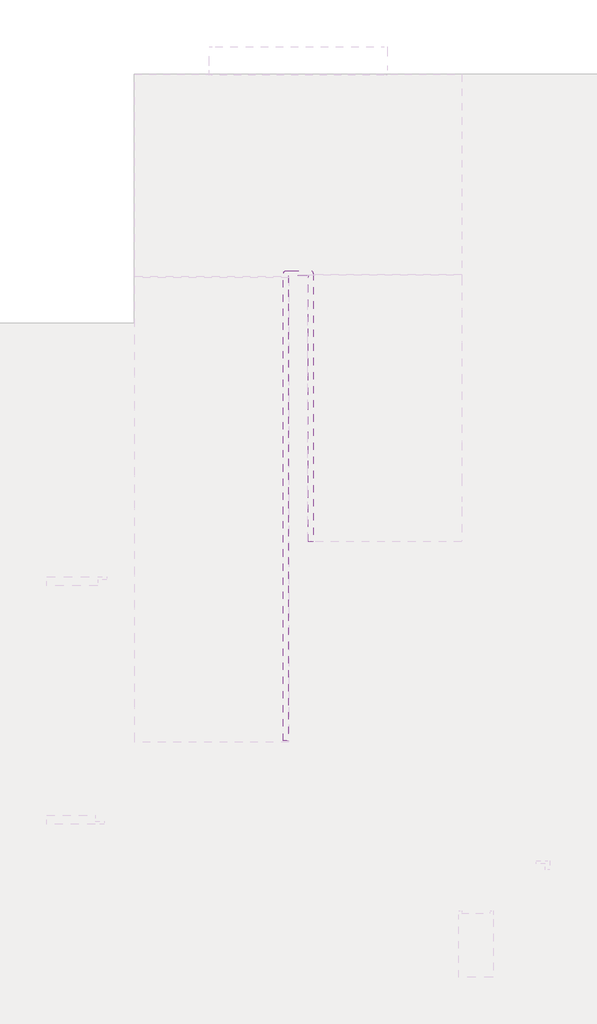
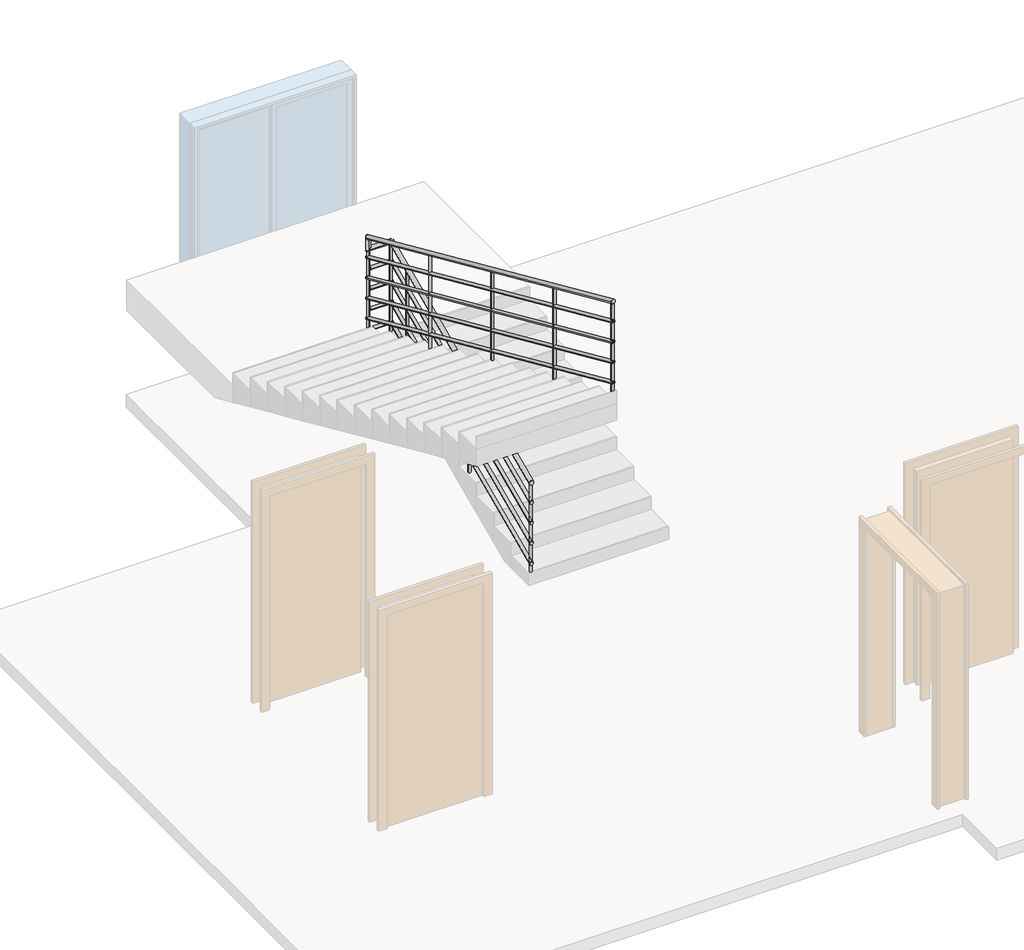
# One storey, part 4 of 5: 1 railing.
"""IFC4 building model written with IfcOpenShell, lengths in millimetres."""

from ifc_helpers import new_model, si_unit, point, frame, frame_2d, origin, place, context, project, spatial, circle_curve, ellipse_curve, trimmed, segment, composite_curve, outline, extrude, element, save
from ifc_brep_helpers import plane_surface, cylinder_surface, advanced_brep

model = new_model("IFC4")

# Units and contexts
model_context = context("Model", 3, world=origin())
ifc_project = project(units=[si_unit("LENGTHUNIT", "METRE", prefix="MILLI")], contexts=[model_context])

# Site, building, storey
site = spatial("IfcSite", under=ifc_project)
building = spatial("IfcBuilding", under=site)
storey = spatial("IfcBuildingStorey", under=building, Name="标高 1", Elevation=0.0)

# Railing
placement = place(None, origin())
element("IfcRailing", 1, ObjectType="900mm 圆管", at=placement, inside=storey, context=model_context, shape_type="SolidModel", body=[
    advanced_brep(
    [(-4237.8622628, 21684.1658649, 2203.0975027), (-4277.8622628, 21684.1658649, 2203.0975027), (-4237.8622628, 23950.5816393, 3214.8902592), (-4277.8622628, 23914.056124, 3198.5842255)],
    [
        (0, 1, ellipse_curve(frame((-4257.8622628, 21684.1658649, 2203.0975027), z_axis=(0.0, -1.0, 0.0), x_axis=(0.0, 0.0, -1.0)), 21.9024973, 20.0)),
        (1, 0, ellipse_curve(frame((-4257.8622628, 21684.1658649, 2203.0975027), z_axis=(0.0, -1.0, 0.0), x_axis=(0.0, 0.0, -1.0)), 21.9024973, 20.0)),
        (2, 3, ellipse_curve(frame((-4257.8622628, 23932.3188817, 3206.7372424), z_axis=(-0.707106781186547, 0.6456859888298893, 0.2882526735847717), x_axis=(-0.707106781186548, -0.6456859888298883, -0.2882526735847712)), 28.2842712, 20.0)),
        (3, 2, ellipse_curve(frame((-4257.8622628, 23932.3188817, 3206.7372424), z_axis=(-0.707106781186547, 0.6456859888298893, 0.2882526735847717), x_axis=(-0.707106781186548, -0.6456859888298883, -0.2882526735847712)), 28.2842712, 20.0)),
        (0, 2),
        (3, 1),
    ],
    [
        plane_surface(frame((-4257.8622628, 21684.1658649, 2225.0), z_axis=(0.0, -1.0, 0.0), x_axis=(0.0, 0.0, 1.0))),
        plane_surface(frame((-4257.8622628, 23924.1658649, 3225.0), z_axis=(-0.7071067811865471, 0.6456859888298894, 0.28825267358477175), x_axis=(0.7071067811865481, 0.6456859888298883, 0.28825267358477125))),
        cylinder_surface(frame((-4257.8622628, 21692.3188817, 2206.7372424), z_axis=(0.0, -0.9131378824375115, -0.4076508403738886), x_axis=(-1.0, 0.0, 0.0)), 20.0),
    ],
    [
        (0, [[1, 2]]),
        (1, [[3, 4]]),
        (2, [[-1, 5, -4, 6]]),
        (2, [[-2, -6, -3, -5]]),
    ],
),
    advanced_brep(
    [(-4247.752522, 23969.5658649, 3205.0), (-4284.2780373, 23929.5658649, 3205.0), (-4468.6622628, 23969.5658649, 3205.0), (-4468.6622628, 23929.5658649, 3205.0)],
    [
        (0, 1, ellipse_curve(frame((-4266.0152796, 23949.5658649, 3205.0), z_axis=(0.707106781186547, -0.6456859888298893, -0.2882526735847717), x_axis=(0.7071067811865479, 0.6456859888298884, 0.2882526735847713)), 28.2842712, 20.0)),
        (1, 0, ellipse_curve(frame((-4266.0152796, 23949.5658649, 3205.0), z_axis=(0.707106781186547, -0.6456859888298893, -0.2882526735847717), x_axis=(0.7071067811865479, 0.6456859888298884, 0.2882526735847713)), 28.2842712, 20.0)),
        (2, 3, ellipse_curve(frame((-4468.6622628, 23949.5658649, 3205.0), z_axis=(-0.7071067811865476, 0.0, 0.7071067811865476), x_axis=(0.7071067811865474, 0.0, 0.7071067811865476)), 28.2842712, 20.0)),
        (3, 2, ellipse_curve(frame((-4468.6622628, 23949.5658649, 3205.0), z_axis=(-0.7071067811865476, 0.0, 0.7071067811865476), x_axis=(0.7071067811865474, 0.0, 0.7071067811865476)), 28.2842712, 20.0)),
        (0, 2),
        (3, 1),
    ],
    [
        plane_surface(frame((-4257.8622628, 23949.5658649, 3225.0), z_axis=(0.7071067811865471, -0.6456859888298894, -0.28825267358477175), x_axis=(0.7071067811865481, 0.6456859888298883, 0.28825267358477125))),
        plane_surface(frame((-4448.6622628, 23949.5658649, 3225.0), z_axis=(-0.7071067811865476, 0.0, 0.7071067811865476), x_axis=(0.7071067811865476, 0.0, 0.7071067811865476))),
        cylinder_surface(frame((-4257.8622628, 23949.5658649, 3205.0), z_axis=(1.0, 0.0, 0.0), x_axis=(0.0, -1.0, 0.0)), 20.0),
    ],
    [
        (0, [[1, 2]]),
        (1, [[3, 4]]),
        (2, [[-1, 5, -4, 6]]),
        (2, [[-2, -6, -3, -5]]),
    ],
),
    advanced_brep(
    [(-4468.6622628, 23969.5658649, 3205.0), (-4468.6622628, 23929.5658649, 3205.0), (-4468.6622628, 23969.5658649, 3329.7321429), (-4468.6622628, 23929.5658649, 3303.7842911)],
    [
        (0, 1, ellipse_curve(frame((-4468.6622628, 23949.5658649, 3205.0), z_axis=(0.7071067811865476, 0.0, -0.7071067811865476), x_axis=(-0.7071067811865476, 0.0, -0.7071067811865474)), 28.2842712, 20.0)),
        (1, 0, ellipse_curve(frame((-4468.6622628, 23949.5658649, 3205.0), z_axis=(0.7071067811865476, 0.0, -0.7071067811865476), x_axis=(-0.7071067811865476, 0.0, -0.7071067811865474)), 28.2842712, 20.0)),
        (2, 3, ellipse_curve(frame((-4468.6622628, 23949.5658649, 3316.758217), z_axis=(0.0, -0.5442192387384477, 0.8389430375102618), x_axis=(0.0, -0.8389430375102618, -0.5442192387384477)), 23.8395208, 20.0)),
        (3, 2, ellipse_curve(frame((-4468.6622628, 23949.5658649, 3316.758217), z_axis=(0.0, -0.5442192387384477, 0.8389430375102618), x_axis=(0.0, -0.8389430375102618, -0.5442192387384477)), 23.8395208, 20.0)),
        (0, 2),
        (3, 1),
    ],
    [
        plane_surface(frame((-4468.6622628, 23949.5658649, 3205.0), z_axis=(0.7071067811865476, 0.0, -0.7071067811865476), x_axis=(0.7071067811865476, 0.0, 0.7071067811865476))),
        plane_surface(frame((-4468.6622628, 23949.5658649, 3316.758217), z_axis=(0.0, -0.5442192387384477, 0.8389430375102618), x_axis=(1.0, 0.0, 0.0))),
        cylinder_surface(frame((-4468.6622628, 23949.5658649, 3205.0), z_axis=(0.0, 0.0, -1.0), x_axis=(0.0, -1.0, 0.0)), 20.0),
    ],
    [
        (0, [[1, 2]]),
        (1, [[3, 4]]),
        (2, [[-1, 5, -4, 6]]),
        (2, [[-2, -6, -3, -5]]),
    ],
),
    advanced_brep(
    [(-4488.6622628, 23949.5658649, 3316.758217), (-4448.6622628, 23949.5658649, 3316.758217), (-4488.6622628, 20004.1658649, 5078.0975027), (-4448.6622628, 20004.1658649, 5078.0975027)],
    [
        (0, 1, ellipse_curve(frame((-4468.6622628, 23949.5658649, 3316.758217), z_axis=(0.0, 0.5442192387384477, -0.8389430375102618), x_axis=(0.0, 0.8389430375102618, 0.5442192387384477)), 23.8395208, 20.0)),
        (1, 0, ellipse_curve(frame((-4468.6622628, 23949.5658649, 3316.758217), z_axis=(0.0, 0.5442192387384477, -0.8389430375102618), x_axis=(0.0, 0.8389430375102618, 0.5442192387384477)), 23.8395208, 20.0)),
        (2, 3, ellipse_curve(frame((-4468.6622628, 20004.1658649, 5078.0975027), z_axis=(0.0, -1.0, 0.0), x_axis=(0.0, 0.0, -1.0)), 21.9024973, 20.0)),
        (3, 2, ellipse_curve(frame((-4468.6622628, 20004.1658649, 5078.0975027), z_axis=(0.0, -1.0, 0.0), x_axis=(0.0, 0.0, -1.0)), 21.9024973, 20.0)),
        (0, 2),
        (3, 1),
    ],
    [
        plane_surface(frame((-4468.6622628, 23969.5658649, 3329.7321429), z_axis=(0.0, 0.5442192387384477, -0.8389430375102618), x_axis=(1.0, 0.0, 0.0))),
        plane_surface(frame((-4468.6622628, 20004.1658649, 5100.0), z_axis=(0.0, -1.0, 0.0), x_axis=(0.0, 0.0, -1.0))),
        cylinder_surface(frame((-4468.6622628, 23961.4128481, 3311.4693852), z_axis=(0.0, 0.9131378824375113, -0.407650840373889), x_axis=(1.0, 0.0, 0.0)), 20.0),
    ],
    [
        (0, [[1, 2]]),
        (1, [[3, 4]]),
        (2, [[-1, 5, -4, 6]]),
        (2, [[-2, -6, -3, -5]]),
    ],
),
    advanced_brep(
    [(-4242.8622628, 21684.1658649, 2008.573127), (-4272.8622628, 21684.1658649, 2008.573127), (-4242.8622628, 23927.3620603, 3010.0), (-4272.8622628, 23927.3620603, 3010.0), (-4242.8622628, 23934.5658649, 3010.0), (-4272.8622628, 23934.5658649, 3010.0)],
    [
        (0, 1, ellipse_curve(frame((-4257.8622628, 21684.1658649, 2008.573127), z_axis=(0.0, -1.0, 0.0), x_axis=(0.0, 0.0, -1.0)), 16.426873, 15.0)),
        (1, 0, ellipse_curve(frame((-4257.8622628, 21684.1658649, 2008.573127), z_axis=(0.0, -1.0, 0.0), x_axis=(0.0, 0.0, -1.0)), 16.426873, 15.0)),
        (0, 2),
        (2, 3, ellipse_curve(frame((-4257.8622628, 23927.3620603, 3010.0), z_axis=(0.0, -0.9780434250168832, -0.20840119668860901), x_axis=(0.0, 0.20840119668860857, -0.9780434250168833)), 15.3367423, 15.0)),
        (3, 1),
        (3, 2, ellipse_curve(frame((-4257.8622628, 23927.3620603, 3010.0), z_axis=(0.0, -0.9780434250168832, -0.20840119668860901), x_axis=(0.0, 0.20840119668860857, -0.9780434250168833)), 15.3367423, 15.0)),
        (4, 5, circle_curve(frame((-4257.8622628, 23934.5658649, 3010.0), z_axis=(0.0, 1.0, 0.0), x_axis=(-1.0, 0.0, 0.0)), 15.0)),
        (5, 4, circle_curve(frame((-4257.8622628, 23934.5658649, 3010.0), z_axis=(0.0, 1.0, 0.0), x_axis=(-1.0, 0.0, 0.0)), 15.0)),
        (2, 4),
        (5, 3),
    ],
    [
        plane_surface(frame((-4257.8622628, 21684.1658649, 2025.0), z_axis=(0.0, -1.0, 0.0), x_axis=(0.0, 0.0, 1.0))),
        cylinder_surface(frame((-4257.8622628, 21690.2806275, 2011.3029318), z_axis=(0.0, -0.9131378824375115, -0.4076508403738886), x_axis=(-1.0, 0.0, 0.0)), 15.0),
        plane_surface(frame((-4257.8622628, 23934.5658649, 3025.0), z_axis=(0.0, 1.0, 0.0), x_axis=(0.0, 0.0, 1.0))),
        cylinder_surface(frame((-4257.8622628, 23924.1658649, 3010.0), z_axis=(0.0, -1.0, 0.0), x_axis=(-1.0, 0.0, 0.0)), 15.0),
    ],
    [
        (0, [[1, 2]]),
        (1, [[-1, 3, 4, 5]]),
        (1, [[-2, -5, 6, -3]]),
        (2, [[7, 8]]),
        (3, [[-4, 9, -8, 10]]),
        (3, [[-6, -10, -7, -9]]),
    ],
),
    advanced_brep(
    [(-4242.8622628, 23964.5658649, 3010.0), (-4242.8622628, 23934.5658649, 3010.0), (-4453.6622628, 23964.5658649, 3010.0), (-4453.6622628, 23934.5658649, 3010.0)],
    [
        (0, 1, circle_curve(frame((-4242.8622628, 23949.5658649, 3010.0), z_axis=(1.0, 0.0, 0.0), x_axis=(0.0, -1.0, 0.0)), 15.0)),
        (1, 0, circle_curve(frame((-4242.8622628, 23949.5658649, 3010.0), z_axis=(1.0, 0.0, 0.0), x_axis=(0.0, -1.0, 0.0)), 15.0)),
        (2, 3, circle_curve(frame((-4453.6622628, 23949.5658649, 3010.0), z_axis=(-1.0, 0.0, 0.0), x_axis=(0.0, -1.0, 0.0)), 15.0)),
        (3, 2, circle_curve(frame((-4453.6622628, 23949.5658649, 3010.0), z_axis=(-1.0, 0.0, 0.0), x_axis=(0.0, -1.0, 0.0)), 15.0)),
        (0, 2),
        (3, 1),
    ],
    [
        plane_surface(frame((-4242.8622628, 23949.5658649, 3025.0), z_axis=(1.0, 0.0, 0.0), x_axis=(0.0, -1.0, 0.0))),
        plane_surface(frame((-4453.6622628, 23949.5658649, 3025.0), z_axis=(-1.0, 0.0, 0.0), x_axis=(0.0, -1.0, 0.0))),
        cylinder_surface(frame((-4242.8622628, 23949.5658649, 3010.0), z_axis=(1.0, 0.0, 0.0), x_axis=(0.0, -1.0, 0.0)), 15.0),
    ],
    [
        (0, [[1, 2]]),
        (1, [[3, 4]]),
        (2, [[-1, 5, -4, 6]]),
        (2, [[-2, -6, -3, -5]]),
    ],
),
    advanced_brep(
    [(-4483.6622628, 23964.5658649, 3115.5374127), (-4453.6622628, 23964.5658649, 3115.5374127), (-4483.6622628, 20004.1658649, 4883.573127), (-4453.6622628, 20004.1658649, 4883.573127)],
    [
        (0, 1, ellipse_curve(frame((-4468.6622628, 23964.5658649, 3115.5374127), z_axis=(0.0, 1.0, 0.0), x_axis=(0.0, 0.0, -1.0)), 16.426873, 15.0)),
        (1, 0, ellipse_curve(frame((-4468.6622628, 23964.5658649, 3115.5374127), z_axis=(0.0, 1.0, 0.0), x_axis=(0.0, 0.0, -1.0)), 16.426873, 15.0)),
        (2, 3, ellipse_curve(frame((-4468.6622628, 20004.1658649, 4883.573127), z_axis=(0.0, -1.0, 0.0), x_axis=(0.0, 0.0, -1.0)), 16.426873, 15.0)),
        (3, 2, ellipse_curve(frame((-4468.6622628, 20004.1658649, 4883.573127), z_axis=(0.0, -1.0, 0.0), x_axis=(0.0, 0.0, -1.0)), 16.426873, 15.0)),
        (0, 2),
        (3, 1),
    ],
    [
        plane_surface(frame((-4468.6622628, 23964.5658649, 3131.9642857), z_axis=(0.0, 1.0, 0.0), x_axis=(0.0, 0.0, -1.0))),
        plane_surface(frame((-4468.6622628, 20004.1658649, 4900.0), z_axis=(0.0, -1.0, 0.0), x_axis=(0.0, 0.0, -1.0))),
        cylinder_surface(frame((-4468.6622628, 23958.4511023, 3118.2672175), z_axis=(0.0, 0.9131378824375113, -0.407650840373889), x_axis=(1.0, 0.0, 0.0)), 15.0),
    ],
    [
        (0, [[1, 2]]),
        (1, [[3, 4]]),
        (2, [[-1, 5, -4, 6]]),
        (2, [[-2, -6, -3, -5]]),
    ],
),
    advanced_brep(
    [(-4242.8622628, 21684.1658649, 1808.573127), (-4272.8622628, 21684.1658649, 1808.573127), (-4242.8622628, 23927.3620603, 2810.0), (-4272.8622628, 23927.3620603, 2810.0), (-4242.8622628, 23934.5658649, 2810.0), (-4272.8622628, 23934.5658649, 2810.0)],
    [
        (0, 1, ellipse_curve(frame((-4257.8622628, 21684.1658649, 1808.573127), z_axis=(0.0, -1.0, 0.0), x_axis=(0.0, 0.0, -1.0)), 16.426873, 15.0)),
        (1, 0, ellipse_curve(frame((-4257.8622628, 21684.1658649, 1808.573127), z_axis=(0.0, -1.0, 0.0), x_axis=(0.0, 0.0, -1.0)), 16.426873, 15.0)),
        (0, 2),
        (2, 3, ellipse_curve(frame((-4257.8622628, 23927.3620603, 2810.0), z_axis=(0.0, -0.9780434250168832, -0.20840119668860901), x_axis=(0.0, 0.20840119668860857, -0.9780434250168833)), 15.3367423, 15.0)),
        (3, 1),
        (3, 2, ellipse_curve(frame((-4257.8622628, 23927.3620603, 2810.0), z_axis=(0.0, -0.9780434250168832, -0.20840119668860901), x_axis=(0.0, 0.20840119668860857, -0.9780434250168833)), 15.3367423, 15.0)),
        (4, 5, circle_curve(frame((-4257.8622628, 23934.5658649, 2810.0), z_axis=(0.0, 1.0, 0.0), x_axis=(-1.0, 0.0, 0.0)), 15.0)),
        (5, 4, circle_curve(frame((-4257.8622628, 23934.5658649, 2810.0), z_axis=(0.0, 1.0, 0.0), x_axis=(-1.0, 0.0, 0.0)), 15.0)),
        (2, 4),
        (5, 3),
    ],
    [
        plane_surface(frame((-4257.8622628, 21684.1658649, 1825.0), z_axis=(0.0, -1.0, 0.0), x_axis=(0.0, 0.0, 1.0))),
        cylinder_surface(frame((-4257.8622628, 21690.2806275, 1811.3029318), z_axis=(0.0, -0.9131378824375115, -0.4076508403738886), x_axis=(-1.0, 0.0, 0.0)), 15.0),
        plane_surface(frame((-4257.8622628, 23934.5658649, 2825.0), z_axis=(0.0, 1.0, 0.0), x_axis=(0.0, 0.0, 1.0))),
        cylinder_surface(frame((-4257.8622628, 23924.1658649, 2810.0), z_axis=(0.0, -1.0, 0.0), x_axis=(-1.0, 0.0, 0.0)), 15.0),
    ],
    [
        (0, [[1, 2]]),
        (1, [[-1, 3, 4, 5]]),
        (1, [[-2, -5, 6, -3]]),
        (2, [[7, 8]]),
        (3, [[-4, 9, -8, 10]]),
        (3, [[-6, -10, -7, -9]]),
    ],
),
    advanced_brep(
    [(-4242.8622628, 23964.5658649, 2810.0), (-4242.8622628, 23934.5658649, 2810.0), (-4453.6622628, 23964.5658649, 2810.0), (-4453.6622628, 23934.5658649, 2810.0)],
    [
        (0, 1, circle_curve(frame((-4242.8622628, 23949.5658649, 2810.0), z_axis=(1.0, 0.0, 0.0), x_axis=(0.0, -1.0, 0.0)), 15.0)),
        (1, 0, circle_curve(frame((-4242.8622628, 23949.5658649, 2810.0), z_axis=(1.0, 0.0, 0.0), x_axis=(0.0, -1.0, 0.0)), 15.0)),
        (2, 3, circle_curve(frame((-4453.6622628, 23949.5658649, 2810.0), z_axis=(-1.0, 0.0, 0.0), x_axis=(0.0, -1.0, 0.0)), 15.0)),
        (3, 2, circle_curve(frame((-4453.6622628, 23949.5658649, 2810.0), z_axis=(-1.0, 0.0, 0.0), x_axis=(0.0, -1.0, 0.0)), 15.0)),
        (0, 2),
        (3, 1),
    ],
    [
        plane_surface(frame((-4242.8622628, 23949.5658649, 2825.0), z_axis=(1.0, 0.0, 0.0), x_axis=(0.0, -1.0, 0.0))),
        plane_surface(frame((-4453.6622628, 23949.5658649, 2825.0), z_axis=(-1.0, 0.0, 0.0), x_axis=(0.0, -1.0, 0.0))),
        cylinder_surface(frame((-4242.8622628, 23949.5658649, 2810.0), z_axis=(1.0, 0.0, 0.0), x_axis=(0.0, -1.0, 0.0)), 15.0),
    ],
    [
        (0, [[1, 2]]),
        (1, [[3, 4]]),
        (2, [[-1, 5, -4, 6]]),
        (2, [[-2, -6, -3, -5]]),
    ],
),
    advanced_brep(
    [(-4483.6622628, 23964.5658649, 2915.5374127), (-4453.6622628, 23964.5658649, 2915.5374127), (-4483.6622628, 20004.1658649, 4683.573127), (-4453.6622628, 20004.1658649, 4683.573127)],
    [
        (0, 1, ellipse_curve(frame((-4468.6622628, 23964.5658649, 2915.5374127), z_axis=(0.0, 1.0, 0.0), x_axis=(0.0, 0.0, -1.0)), 16.426873, 15.0)),
        (1, 0, ellipse_curve(frame((-4468.6622628, 23964.5658649, 2915.5374127), z_axis=(0.0, 1.0, 0.0), x_axis=(0.0, 0.0, -1.0)), 16.426873, 15.0)),
        (2, 3, ellipse_curve(frame((-4468.6622628, 20004.1658649, 4683.573127), z_axis=(0.0, -1.0, 0.0), x_axis=(0.0, 0.0, -1.0)), 16.426873, 15.0)),
        (3, 2, ellipse_curve(frame((-4468.6622628, 20004.1658649, 4683.573127), z_axis=(0.0, -1.0, 0.0), x_axis=(0.0, 0.0, -1.0)), 16.426873, 15.0)),
        (0, 2),
        (3, 1),
    ],
    [
        plane_surface(frame((-4468.6622628, 23964.5658649, 2931.9642857), z_axis=(0.0, 1.0, 0.0), x_axis=(0.0, 0.0, -1.0))),
        plane_surface(frame((-4468.6622628, 20004.1658649, 4700.0), z_axis=(0.0, -1.0, 0.0), x_axis=(0.0, 0.0, -1.0))),
        cylinder_surface(frame((-4468.6622628, 23958.4511023, 2918.2672175), z_axis=(0.0, 0.9131378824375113, -0.407650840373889), x_axis=(1.0, 0.0, 0.0)), 15.0),
    ],
    [
        (0, [[1, 2]]),
        (1, [[3, 4]]),
        (2, [[-1, 5, -4, 6]]),
        (2, [[-2, -6, -3, -5]]),
    ],
),
    advanced_brep(
    [(-4242.8622628, 21684.1658649, 1608.573127), (-4272.8622628, 21684.1658649, 1608.573127), (-4242.8622628, 23927.3620603, 2610.0), (-4272.8622628, 23927.3620603, 2610.0), (-4242.8622628, 23934.5658649, 2610.0), (-4272.8622628, 23934.5658649, 2610.0)],
    [
        (0, 1, ellipse_curve(frame((-4257.8622628, 21684.1658649, 1608.573127), z_axis=(0.0, -1.0, 0.0), x_axis=(0.0, 0.0, -1.0)), 16.426873, 15.0)),
        (1, 0, ellipse_curve(frame((-4257.8622628, 21684.1658649, 1608.573127), z_axis=(0.0, -1.0, 0.0), x_axis=(0.0, 0.0, -1.0)), 16.426873, 15.0)),
        (0, 2),
        (2, 3, ellipse_curve(frame((-4257.8622628, 23927.3620603, 2610.0), z_axis=(0.0, -0.9780434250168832, -0.20840119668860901), x_axis=(0.0, 0.20840119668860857, -0.9780434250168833)), 15.3367423, 15.0)),
        (3, 1),
        (3, 2, ellipse_curve(frame((-4257.8622628, 23927.3620603, 2610.0), z_axis=(0.0, -0.9780434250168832, -0.20840119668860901), x_axis=(0.0, 0.20840119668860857, -0.9780434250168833)), 15.3367423, 15.0)),
        (4, 5, circle_curve(frame((-4257.8622628, 23934.5658649, 2610.0), z_axis=(0.0, 1.0, 0.0), x_axis=(-1.0, 0.0, 0.0)), 15.0)),
        (5, 4, circle_curve(frame((-4257.8622628, 23934.5658649, 2610.0), z_axis=(0.0, 1.0, 0.0), x_axis=(-1.0, 0.0, 0.0)), 15.0)),
        (2, 4),
        (5, 3),
    ],
    [
        plane_surface(frame((-4257.8622628, 21684.1658649, 1625.0), z_axis=(0.0, -1.0, 0.0), x_axis=(0.0, 0.0, 1.0))),
        cylinder_surface(frame((-4257.8622628, 21690.2806275, 1611.3029318), z_axis=(0.0, -0.9131378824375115, -0.4076508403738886), x_axis=(-1.0, 0.0, 0.0)), 15.0),
        plane_surface(frame((-4257.8622628, 23934.5658649, 2625.0), z_axis=(0.0, 1.0, 0.0), x_axis=(0.0, 0.0, 1.0))),
        cylinder_surface(frame((-4257.8622628, 23924.1658649, 2610.0), z_axis=(0.0, -1.0, 0.0), x_axis=(-1.0, 0.0, 0.0)), 15.0),
    ],
    [
        (0, [[1, 2]]),
        (1, [[-1, 3, 4, 5]]),
        (1, [[-2, -5, 6, -3]]),
        (2, [[7, 8]]),
        (3, [[-4, 9, -8, 10]]),
        (3, [[-6, -10, -7, -9]]),
    ],
),
    advanced_brep(
    [(-4242.8622628, 23964.5658649, 2610.0), (-4242.8622628, 23934.5658649, 2610.0), (-4453.6622628, 23964.5658649, 2610.0), (-4453.6622628, 23934.5658649, 2610.0)],
    [
        (0, 1, circle_curve(frame((-4242.8622628, 23949.5658649, 2610.0), z_axis=(1.0, 0.0, 0.0), x_axis=(0.0, -1.0, 0.0)), 15.0)),
        (1, 0, circle_curve(frame((-4242.8622628, 23949.5658649, 2610.0), z_axis=(1.0, 0.0, 0.0), x_axis=(0.0, -1.0, 0.0)), 15.0)),
        (2, 3, circle_curve(frame((-4453.6622628, 23949.5658649, 2610.0), z_axis=(-1.0, 0.0, 0.0), x_axis=(0.0, -1.0, 0.0)), 15.0)),
        (3, 2, circle_curve(frame((-4453.6622628, 23949.5658649, 2610.0), z_axis=(-1.0, 0.0, 0.0), x_axis=(0.0, -1.0, 0.0)), 15.0)),
        (0, 2),
        (3, 1),
    ],
    [
        plane_surface(frame((-4242.8622628, 23949.5658649, 2625.0), z_axis=(1.0, 0.0, 0.0), x_axis=(0.0, -1.0, 0.0))),
        plane_surface(frame((-4453.6622628, 23949.5658649, 2625.0), z_axis=(-1.0, 0.0, 0.0), x_axis=(0.0, -1.0, 0.0))),
        cylinder_surface(frame((-4242.8622628, 23949.5658649, 2610.0), z_axis=(1.0, 0.0, 0.0), x_axis=(0.0, -1.0, 0.0)), 15.0),
    ],
    [
        (0, [[1, 2]]),
        (1, [[3, 4]]),
        (2, [[-1, 5, -4, 6]]),
        (2, [[-2, -6, -3, -5]]),
    ],
),
    advanced_brep(
    [(-4483.6622628, 23964.5658649, 2715.5374127), (-4453.6622628, 23964.5658649, 2715.5374127), (-4483.6622628, 20004.1658649, 4483.573127), (-4453.6622628, 20004.1658649, 4483.573127)],
    [
        (0, 1, ellipse_curve(frame((-4468.6622628, 23964.5658649, 2715.5374127), z_axis=(0.0, 1.0, 0.0), x_axis=(0.0, 0.0, -1.0)), 16.426873, 15.0)),
        (1, 0, ellipse_curve(frame((-4468.6622628, 23964.5658649, 2715.5374127), z_axis=(0.0, 1.0, 0.0), x_axis=(0.0, 0.0, -1.0)), 16.426873, 15.0)),
        (2, 3, ellipse_curve(frame((-4468.6622628, 20004.1658649, 4483.573127), z_axis=(0.0, -1.0, 0.0), x_axis=(0.0, 0.0, -1.0)), 16.426873, 15.0)),
        (3, 2, ellipse_curve(frame((-4468.6622628, 20004.1658649, 4483.573127), z_axis=(0.0, -1.0, 0.0), x_axis=(0.0, 0.0, -1.0)), 16.426873, 15.0)),
        (0, 2),
        (3, 1),
    ],
    [
        plane_surface(frame((-4468.6622628, 23964.5658649, 2731.9642857), z_axis=(0.0, 1.0, 0.0), x_axis=(0.0, 0.0, -1.0))),
        plane_surface(frame((-4468.6622628, 20004.1658649, 4500.0), z_axis=(0.0, -1.0, 0.0), x_axis=(0.0, 0.0, -1.0))),
        cylinder_surface(frame((-4468.6622628, 23958.4511023, 2718.2672175), z_axis=(0.0, 0.9131378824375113, -0.407650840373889), x_axis=(1.0, 0.0, 0.0)), 15.0),
    ],
    [
        (0, [[1, 2]]),
        (1, [[3, 4]]),
        (2, [[-1, 5, -4, 6]]),
        (2, [[-2, -6, -3, -5]]),
    ],
),
    advanced_brep(
    [(-4242.8622628, 21684.1658649, 1408.573127), (-4272.8622628, 21684.1658649, 1408.573127), (-4242.8622628, 23927.3620603, 2410.0), (-4272.8622628, 23927.3620603, 2410.0), (-4242.8622628, 23934.5658649, 2410.0), (-4272.8622628, 23934.5658649, 2410.0)],
    [
        (0, 1, ellipse_curve(frame((-4257.8622628, 21684.1658649, 1408.573127), z_axis=(0.0, -1.0, 0.0), x_axis=(0.0, 0.0, -1.0)), 16.426873, 15.0)),
        (1, 0, ellipse_curve(frame((-4257.8622628, 21684.1658649, 1408.573127), z_axis=(0.0, -1.0, 0.0), x_axis=(0.0, 0.0, -1.0)), 16.426873, 15.0)),
        (0, 2),
        (2, 3, ellipse_curve(frame((-4257.8622628, 23927.3620603, 2410.0), z_axis=(0.0, -0.9780434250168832, -0.20840119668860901), x_axis=(0.0, 0.20840119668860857, -0.9780434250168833)), 15.3367423, 15.0)),
        (3, 1),
        (3, 2, ellipse_curve(frame((-4257.8622628, 23927.3620603, 2410.0), z_axis=(0.0, -0.9780434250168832, -0.20840119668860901), x_axis=(0.0, 0.20840119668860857, -0.9780434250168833)), 15.3367423, 15.0)),
        (4, 5, circle_curve(frame((-4257.8622628, 23934.5658649, 2410.0), z_axis=(0.0, 1.0, 0.0), x_axis=(-1.0, 0.0, 0.0)), 15.0)),
        (5, 4, circle_curve(frame((-4257.8622628, 23934.5658649, 2410.0), z_axis=(0.0, 1.0, 0.0), x_axis=(-1.0, 0.0, 0.0)), 15.0)),
        (2, 4),
        (5, 3),
    ],
    [
        plane_surface(frame((-4257.8622628, 21684.1658649, 1425.0), z_axis=(0.0, -1.0, 0.0), x_axis=(0.0, 0.0, 1.0))),
        cylinder_surface(frame((-4257.8622628, 21690.2806275, 1411.3029318), z_axis=(0.0, -0.9131378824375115, -0.4076508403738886), x_axis=(-1.0, 0.0, 0.0)), 15.0),
        plane_surface(frame((-4257.8622628, 23934.5658649, 2425.0), z_axis=(0.0, 1.0, 0.0), x_axis=(0.0, 0.0, 1.0))),
        cylinder_surface(frame((-4257.8622628, 23924.1658649, 2410.0), z_axis=(0.0, -1.0, 0.0), x_axis=(-1.0, 0.0, 0.0)), 15.0),
    ],
    [
        (0, [[1, 2]]),
        (1, [[-1, 3, 4, 5]]),
        (1, [[-2, -5, 6, -3]]),
        (2, [[7, 8]]),
        (3, [[-4, 9, -8, 10]]),
        (3, [[-6, -10, -7, -9]]),
    ],
),
    advanced_brep(
    [(-4242.8622628, 23964.5658649, 2410.0), (-4242.8622628, 23934.5658649, 2410.0), (-4453.6622628, 23964.5658649, 2410.0), (-4453.6622628, 23934.5658649, 2410.0)],
    [
        (0, 1, circle_curve(frame((-4242.8622628, 23949.5658649, 2410.0), z_axis=(1.0, 0.0, 0.0), x_axis=(0.0, -1.0, 0.0)), 15.0)),
        (1, 0, circle_curve(frame((-4242.8622628, 23949.5658649, 2410.0), z_axis=(1.0, 0.0, 0.0), x_axis=(0.0, -1.0, 0.0)), 15.0)),
        (2, 3, circle_curve(frame((-4453.6622628, 23949.5658649, 2410.0), z_axis=(-1.0, 0.0, 0.0), x_axis=(0.0, -1.0, 0.0)), 15.0)),
        (3, 2, circle_curve(frame((-4453.6622628, 23949.5658649, 2410.0), z_axis=(-1.0, 0.0, 0.0), x_axis=(0.0, -1.0, 0.0)), 15.0)),
        (0, 2),
        (3, 1),
    ],
    [
        plane_surface(frame((-4242.8622628, 23949.5658649, 2425.0), z_axis=(1.0, 0.0, 0.0), x_axis=(0.0, -1.0, 0.0))),
        plane_surface(frame((-4453.6622628, 23949.5658649, 2425.0), z_axis=(-1.0, 0.0, 0.0), x_axis=(0.0, -1.0, 0.0))),
        cylinder_surface(frame((-4242.8622628, 23949.5658649, 2410.0), z_axis=(1.0, 0.0, 0.0), x_axis=(0.0, -1.0, 0.0)), 15.0),
    ],
    [
        (0, [[1, 2]]),
        (1, [[3, 4]]),
        (2, [[-1, 5, -4, 6]]),
        (2, [[-2, -6, -3, -5]]),
    ],
),
    advanced_brep(
    [(-4483.6622628, 23964.5658649, 2515.5374127), (-4453.6622628, 23964.5658649, 2515.5374127), (-4483.6622628, 20004.1658649, 4283.573127), (-4453.6622628, 20004.1658649, 4283.573127)],
    [
        (0, 1, ellipse_curve(frame((-4468.6622628, 23964.5658649, 2515.5374127), z_axis=(0.0, 1.0, 0.0), x_axis=(0.0, 0.0, -1.0)), 16.426873, 15.0)),
        (1, 0, ellipse_curve(frame((-4468.6622628, 23964.5658649, 2515.5374127), z_axis=(0.0, 1.0, 0.0), x_axis=(0.0, 0.0, -1.0)), 16.426873, 15.0)),
        (2, 3, ellipse_curve(frame((-4468.6622628, 20004.1658649, 4283.573127), z_axis=(0.0, -1.0, 0.0), x_axis=(0.0, 0.0, -1.0)), 16.426873, 15.0)),
        (3, 2, ellipse_curve(frame((-4468.6622628, 20004.1658649, 4283.573127), z_axis=(0.0, -1.0, 0.0), x_axis=(0.0, 0.0, -1.0)), 16.426873, 15.0)),
        (0, 2),
        (3, 1),
    ],
    [
        plane_surface(frame((-4468.6622628, 23964.5658649, 2531.9642857), z_axis=(0.0, 1.0, 0.0), x_axis=(0.0, 0.0, -1.0))),
        plane_surface(frame((-4468.6622628, 20004.1658649, 4300.0), z_axis=(0.0, -1.0, 0.0), x_axis=(0.0, 0.0, -1.0))),
        cylinder_surface(frame((-4468.6622628, 23958.4511023, 2518.2672175), z_axis=(0.0, 0.9131378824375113, -0.407650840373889), x_axis=(1.0, 0.0, 0.0)), 15.0),
    ],
    [
        (0, [[1, 2]]),
        (1, [[3, 4]]),
        (2, [[-1, 5, -4, 6]]),
        (2, [[-2, -6, -3, -5]]),
    ],
),
    advanced_brep(
    [(-4456.1622628, 20949.5658649, 4634.141434), (-4481.1622628, 20949.5658649, 4634.141434), (-4481.1622628, 20949.5658649, 3700.0), (-4456.1622628, 20949.5658649, 3700.0)],
    [
        (0, 1, ellipse_curve(frame((-4468.6622628, 20949.5658649, 4634.141434), z_axis=(0.0, -0.40765084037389, -0.9131378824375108), x_axis=(0.0, -0.9131378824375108, 0.4076508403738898)), 13.6890608, 12.5)),
        (1, 2),
        (2, 3, circle_curve(frame((-4468.6622628, 20949.5658649, 3700.0), z_axis=(0.0, 0.0, 1.0), x_axis=(-1.0, 0.0, 0.0)), 12.5)),
        (3, 0),
        (3, 2, circle_curve(frame((-4468.6622628, 20949.5658649, 3700.0), z_axis=(0.0, 0.0, 1.0), x_axis=(-1.0, 0.0, 0.0)), 12.5)),
        (1, 0, ellipse_curve(frame((-4468.6622628, 20949.5658649, 4634.141434), z_axis=(0.0, -0.40765084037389, -0.9131378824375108), x_axis=(0.0, -0.9131378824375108, 0.4076508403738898)), 13.6890608, 12.5)),
    ],
    [
        cylinder_surface(frame((-4468.6622628, 20949.5658649, 3600.0), z_axis=(0.0, 0.0, 1.0), x_axis=(-1.0, 0.0, 0.0)), 12.5),
        plane_surface(frame((-4493.6622628, 20924.5658649, 4645.3021483), z_axis=(0.0, 0.40765084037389, 0.9131378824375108), x_axis=(1.0, 0.0, 0.0))),
        plane_surface(frame((-4493.6622628, 20974.5658649, 3700.0), z_axis=(0.0, 0.0, -1.0), x_axis=(1.0, 0.0, 0.0))),
    ],
    [
        (0, [[1, 2, 3, 4]]),
        (0, [[5, -2, 6, -4]]),
        (1, [[-6, -1]]),
        (2, [[-5, -3]]),
    ],
),
    advanced_brep(
    [(-4456.1622628, 21949.5658649, 4187.7128626), (-4481.1622628, 21949.5658649, 4187.7128626), (-4481.1622628, 21949.5658649, 3325.0), (-4456.1622628, 21949.5658649, 3325.0)],
    [
        (0, 1, ellipse_curve(frame((-4468.6622628, 21949.5658649, 4187.7128626), z_axis=(0.0, -0.40765084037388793, -0.9131378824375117), x_axis=(0.0, -0.9131378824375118, 0.4076508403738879)), 13.6890608, 12.5)),
        (1, 2),
        (2, 3, circle_curve(frame((-4468.6622628, 21949.5658649, 3325.0), z_axis=(0.0, 0.0, 1.0), x_axis=(-1.0, 0.0, 0.0)), 12.5)),
        (3, 0),
        (3, 2, circle_curve(frame((-4468.6622628, 21949.5658649, 3325.0), z_axis=(0.0, 0.0, 1.0), x_axis=(-1.0, 0.0, 0.0)), 12.5)),
        (1, 0, ellipse_curve(frame((-4468.6622628, 21949.5658649, 4187.7128626), z_axis=(0.0, -0.40765084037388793, -0.9131378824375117), x_axis=(0.0, -0.9131378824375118, 0.4076508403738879)), 13.6890608, 12.5)),
    ],
    [
        cylinder_surface(frame((-4468.6622628, 21949.5658649, 3225.0), z_axis=(0.0, 0.0, 1.0), x_axis=(-1.0, 0.0, 0.0)), 12.5),
        plane_surface(frame((-4493.6622628, 21924.5658649, 4198.8735768), z_axis=(0.0, 0.40765084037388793, 0.9131378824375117), x_axis=(1.0, 0.0, 0.0))),
        plane_surface(frame((-4493.6622628, 21974.5658649, 3325.0), z_axis=(0.0, 0.0, -1.0), x_axis=(1.0, 0.0, 0.0))),
    ],
    [
        (0, [[1, 2, 3, 4]]),
        (0, [[5, -2, 6, -4]]),
        (1, [[-6, -1]]),
        (2, [[-5, -3]]),
    ],
),
    advanced_brep(
    [(-4456.1622628, 22949.5658649, 3741.2842911), (-4481.1622628, 22949.5658649, 3741.2842911), (-4481.1622628, 22949.5658649, 2825.0), (-4456.1622628, 22949.5658649, 2825.0)],
    [
        (0, 1, ellipse_curve(frame((-4468.6622628, 22949.5658649, 3741.2842911), z_axis=(0.0, -0.40765084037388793, -0.9131378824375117), x_axis=(0.0, -0.9131378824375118, 0.4076508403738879)), 13.6890608, 12.5)),
        (1, 2),
        (2, 3, circle_curve(frame((-4468.6622628, 22949.5658649, 2825.0), z_axis=(0.0, 0.0, 1.0), x_axis=(-1.0, 0.0, 0.0)), 12.5)),
        (3, 0),
        (3, 2, circle_curve(frame((-4468.6622628, 22949.5658649, 2825.0), z_axis=(0.0, 0.0, 1.0), x_axis=(-1.0, 0.0, 0.0)), 12.5)),
        (1, 0, ellipse_curve(frame((-4468.6622628, 22949.5658649, 3741.2842911), z_axis=(0.0, -0.40765084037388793, -0.9131378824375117), x_axis=(0.0, -0.9131378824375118, 0.4076508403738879)), 13.6890608, 12.5)),
    ],
    [
        cylinder_surface(frame((-4468.6622628, 22949.5658649, 2725.0), z_axis=(0.0, 0.0, 1.0), x_axis=(-1.0, 0.0, 0.0)), 12.5),
        plane_surface(frame((-4493.6622628, 22924.5658649, 3752.4450054), z_axis=(0.0, 0.40765084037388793, 0.9131378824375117), x_axis=(1.0, 0.0, 0.0))),
        plane_surface(frame((-4493.6622628, 22974.5658649, 2825.0), z_axis=(0.0, 0.0, -1.0), x_axis=(1.0, 0.0, 0.0))),
    ],
    [
        (0, [[1, 2, 3, 4]]),
        (0, [[5, -2, 6, -4]]),
        (1, [[-6, -1]]),
        (2, [[-5, -3]]),
    ],
),
    advanced_brep(
    [(-4270.3622628, 23684.1658649, 3074.0521483), (-4245.3622628, 23684.1658649, 3074.0521483), (-4245.3622628, 23684.1658649, 2200.0), (-4270.3622628, 23684.1658649, 2200.0)],
    [
        (0, 1, ellipse_curve(frame((-4257.8622628, 23684.1658649, 3074.0521483), z_axis=(0.0, 0.40765084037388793, -0.9131378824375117), x_axis=(0.0, 0.9131378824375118, 0.4076508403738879)), 13.6890608, 12.5)),
        (1, 2),
        (2, 3, circle_curve(frame((-4257.8622628, 23684.1658649, 2200.0), z_axis=(0.0, 0.0, 1.0), x_axis=(1.0, 0.0, 0.0)), 12.5)),
        (3, 0),
        (3, 2, circle_curve(frame((-4257.8622628, 23684.1658649, 2200.0), z_axis=(0.0, 0.0, 1.0), x_axis=(1.0, 0.0, 0.0)), 12.5)),
        (1, 0, ellipse_curve(frame((-4257.8622628, 23684.1658649, 3074.0521483), z_axis=(0.0, 0.40765084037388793, -0.9131378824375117), x_axis=(0.0, 0.9131378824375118, 0.4076508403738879)), 13.6890608, 12.5)),
    ],
    [
        cylinder_surface(frame((-4257.8622628, 23684.1658649, 2100.0), z_axis=(0.0, 0.0, 1.0), x_axis=(1.0, 0.0, 0.0)), 12.5),
        plane_surface(frame((-4232.8622628, 23709.1658649, 3085.2128626), z_axis=(0.0, -0.40765084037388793, 0.9131378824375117), x_axis=(-1.0, 0.0, 0.0))),
        plane_surface(frame((-4232.8622628, 23659.1658649, 2200.0), z_axis=(0.0, 0.0, -1.0), x_axis=(-1.0, 0.0, 0.0))),
    ],
    [
        (0, [[1, 2, 3, 4]]),
        (0, [[5, -2, 6, -4]]),
        (1, [[-6, -1]]),
        (2, [[-5, -3]]),
    ],
),
    advanced_brep(
    [(-4270.3622628, 22684.1658649, 2627.6235768), (-4245.3622628, 22684.1658649, 2627.6235768), (-4245.3622628, 22684.1658649, 1700.0), (-4270.3622628, 22684.1658649, 1700.0)],
    [
        (0, 1, ellipse_curve(frame((-4257.8622628, 22684.1658649, 2627.6235768), z_axis=(0.0, 0.40765084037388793, -0.9131378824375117), x_axis=(0.0, 0.9131378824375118, 0.4076508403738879)), 13.6890608, 12.5)),
        (1, 2),
        (2, 3, circle_curve(frame((-4257.8622628, 22684.1658649, 1700.0), z_axis=(0.0, 0.0, 1.0), x_axis=(1.0, 0.0, 0.0)), 12.5)),
        (3, 0),
        (3, 2, circle_curve(frame((-4257.8622628, 22684.1658649, 1700.0), z_axis=(0.0, 0.0, 1.0), x_axis=(1.0, 0.0, 0.0)), 12.5)),
        (1, 0, ellipse_curve(frame((-4257.8622628, 22684.1658649, 2627.6235768), z_axis=(0.0, 0.40765084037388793, -0.9131378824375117), x_axis=(0.0, 0.9131378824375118, 0.4076508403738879)), 13.6890608, 12.5)),
    ],
    [
        cylinder_surface(frame((-4257.8622628, 22684.1658649, 1600.0), z_axis=(0.0, 0.0, 1.0), x_axis=(1.0, 0.0, 0.0)), 12.5),
        plane_surface(frame((-4232.8622628, 22709.1658649, 2638.7842911), z_axis=(0.0, -0.40765084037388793, 0.9131378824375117), x_axis=(-1.0, 0.0, 0.0))),
        plane_surface(frame((-4232.8622628, 22659.1658649, 1700.0), z_axis=(0.0, 0.0, -1.0), x_axis=(-1.0, 0.0, 0.0))),
    ],
    [
        (0, [[1, 2, 3, 4]]),
        (0, [[5, -2, 6, -4]]),
        (1, [[-6, -1]]),
        (2, [[-5, -3]]),
    ],
),
    extrude(outline(composite_curve([segment(trimmed(circle_curve(frame_2d((-4468.6622628, 23949.5658649)), 12.5), [point((-4468.6622628, 23962.0658649))], [point((-4468.6622628, 23937.0658649))], False, "CARTESIAN"), True, "CONTINUOUS"), segment(trimmed(circle_curve(frame_2d((-4468.6622628, 23949.5658649)), 12.5), [point((-4468.6622628, 23937.0658649))], [point((-4468.6622628, 23962.0658649))], False, "CARTESIAN"), True, "CONTINUOUS")], self_intersect=False)), frame((0.0, 0.0, 2325.0), z_axis=(0.0, 0.0, 1.0), x_axis=(1.0, 0.0, 0.0)), (0.0, 0.0, 1.0), 860.0),
    advanced_brep(
    [(-4270.3622628, 23949.5658649, 3192.5342911), (-4245.3622628, 23949.5658649, 3192.5342911), (-4245.3622628, 23949.5658649, 2325.0), (-4270.3622628, 23949.5658649, 2325.0)],
    [
        (0, 1, ellipse_curve(frame((-4257.8622628, 23949.5658649, 3192.5342911), z_axis=(0.0, 0.40765084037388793, -0.9131378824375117), x_axis=(0.0, 0.9131378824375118, 0.4076508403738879)), 13.6890608, 12.5)),
        (1, 2),
        (2, 3, circle_curve(frame((-4257.8622628, 23949.5658649, 2325.0), z_axis=(0.0, 0.0, 1.0), x_axis=(1.0, 0.0, 0.0)), 12.5)),
        (3, 0),
        (3, 2, circle_curve(frame((-4257.8622628, 23949.5658649, 2325.0), z_axis=(0.0, 0.0, 1.0), x_axis=(1.0, 0.0, 0.0)), 12.5)),
        (1, 0, ellipse_curve(frame((-4257.8622628, 23949.5658649, 3192.5342911), z_axis=(0.0, 0.40765084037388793, -0.9131378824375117), x_axis=(0.0, 0.9131378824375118, 0.4076508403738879)), 13.6890608, 12.5)),
    ],
    [
        cylinder_surface(frame((-4257.8622628, 23949.5658649, 2225.0), z_axis=(0.0, 0.0, 1.0), x_axis=(1.0, 0.0, 0.0)), 12.5),
        plane_surface(frame((-4232.8622628, 23974.5658649, 3203.6950054), z_axis=(0.0, -0.40765084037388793, 0.9131378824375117), x_axis=(-1.0, 0.0, 0.0))),
        plane_surface(frame((-4232.8622628, 23924.5658649, 2325.0), z_axis=(0.0, 0.0, -1.0), x_axis=(-1.0, 0.0, 0.0))),
    ],
    [
        (0, [[1, 2, 3, 4]]),
        (0, [[5, -2, 6, -4]]),
        (1, [[-6, -1]]),
        (2, [[-5, -3]]),
    ],
),
    advanced_brep(
    [(-4456.1622628, 20016.6658649, 5050.6146483), (-4481.1622628, 20016.6658649, 5050.6146483), (-4481.1622628, 20016.6658649, 4075.0), (-4456.1622628, 20016.6658649, 4075.0)],
    [
        (0, 1, ellipse_curve(frame((-4468.6622628, 20016.6658649, 5050.6146483), z_axis=(0.0, -0.40765084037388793, -0.9131378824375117), x_axis=(0.0, -0.9131378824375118, 0.4076508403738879)), 13.6890608, 12.5)),
        (1, 2),
        (2, 3, circle_curve(frame((-4468.6622628, 20016.6658649, 4075.0), z_axis=(0.0, 0.0, 1.0), x_axis=(-1.0, 0.0, 0.0)), 12.5)),
        (3, 0),
        (3, 2, circle_curve(frame((-4468.6622628, 20016.6658649, 4075.0), z_axis=(0.0, 0.0, 1.0), x_axis=(-1.0, 0.0, 0.0)), 12.5)),
        (1, 0, ellipse_curve(frame((-4468.6622628, 20016.6658649, 5050.6146483), z_axis=(0.0, -0.40765084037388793, -0.9131378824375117), x_axis=(0.0, -0.9131378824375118, 0.4076508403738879)), 13.6890608, 12.5)),
    ],
    [
        cylinder_surface(frame((-4468.6622628, 20016.6658649, 3975.0), z_axis=(0.0, 0.0, 1.0), x_axis=(-1.0, 0.0, 0.0)), 12.5),
        plane_surface(frame((-4493.6622628, 19991.6658649, 5061.7753626), z_axis=(0.0, 0.40765084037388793, 0.9131378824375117), x_axis=(1.0, 0.0, 0.0))),
        plane_surface(frame((-4493.6622628, 20041.6658649, 4075.0), z_axis=(0.0, 0.0, -1.0), x_axis=(1.0, 0.0, 0.0))),
    ],
    [
        (0, [[1, 2, 3, 4]]),
        (0, [[5, -2, 6, -4]]),
        (1, [[-6, -1]]),
        (2, [[-5, -3]]),
    ],
),
    advanced_brep(
    [(-4270.3622628, 21696.6658649, 2186.7753626), (-4245.3622628, 21696.6658649, 2186.7753626), (-4245.3622628, 21696.6658649, 1325.0), (-4270.3622628, 21696.6658649, 1325.0)],
    [
        (0, 1, ellipse_curve(frame((-4257.8622628, 21696.6658649, 2186.7753626), z_axis=(0.0, 0.40765084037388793, -0.9131378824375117), x_axis=(0.0, 0.9131378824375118, 0.4076508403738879)), 13.6890608, 12.5)),
        (1, 2),
        (2, 3, circle_curve(frame((-4257.8622628, 21696.6658649, 1325.0), z_axis=(0.0, 0.0, 1.0), x_axis=(1.0, 0.0, 0.0)), 12.5)),
        (3, 0),
        (3, 2, circle_curve(frame((-4257.8622628, 21696.6658649, 1325.0), z_axis=(0.0, 0.0, 1.0), x_axis=(1.0, 0.0, 0.0)), 12.5)),
        (1, 0, ellipse_curve(frame((-4257.8622628, 21696.6658649, 2186.7753626), z_axis=(0.0, 0.40765084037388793, -0.9131378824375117), x_axis=(0.0, 0.9131378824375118, 0.4076508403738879)), 13.6890608, 12.5)),
    ],
    [
        cylinder_surface(frame((-4257.8622628, 21696.6658649, 1225.0), z_axis=(0.0, 0.0, 1.0), x_axis=(1.0, 0.0, 0.0)), 12.5),
        plane_surface(frame((-4232.8622628, 21721.6658649, 2197.9360768), z_axis=(0.0, -0.40765084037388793, 0.9131378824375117), x_axis=(-1.0, 0.0, 0.0))),
        plane_surface(frame((-4232.8622628, 21671.6658649, 1325.0), z_axis=(0.0, 0.0, -1.0), x_axis=(-1.0, 0.0, 0.0))),
    ],
    [
        (0, [[1, 2, 3, 4]]),
        (0, [[5, -2, 6, -4]]),
        (1, [[-6, -1]]),
        (2, [[-5, -3]]),
    ],
),
])

save(model, "model.ifc")
